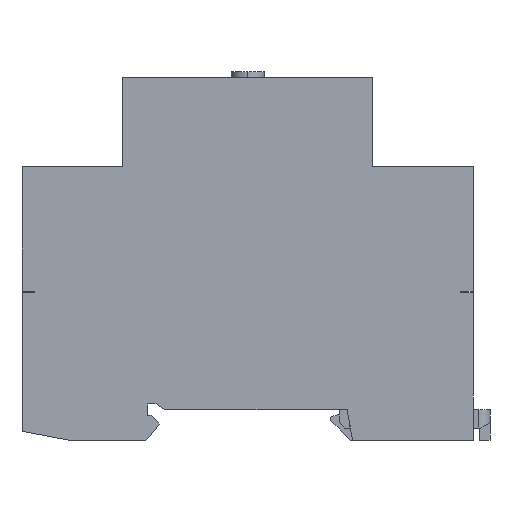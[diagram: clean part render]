
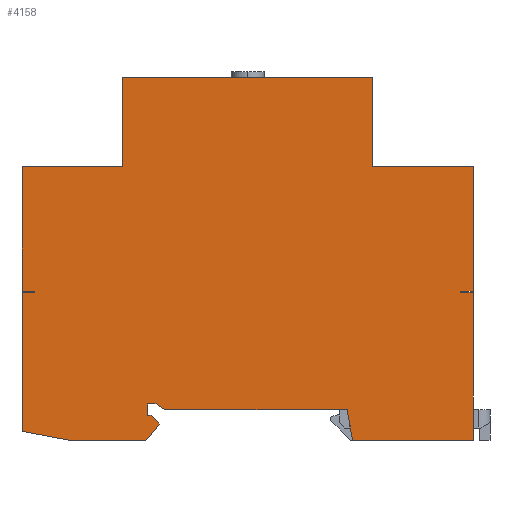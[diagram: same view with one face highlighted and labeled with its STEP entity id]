
A CAD part, left-side view. The second image highlights one B-rep face of the part: STEP entity #4158.
In plain terms, the highlighted planar face has unit normal (-1, 0, 0).
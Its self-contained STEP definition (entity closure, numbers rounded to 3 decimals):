
#1=DIRECTION('',(0.,-1.,0.));
#2=VECTOR('',#1,44.8);
#3=CARTESIAN_POINT('',(0.,62.8,2.));
#4=LINE('',#3,#2);
#5=DIRECTION('',(0.,-1.,0.));
#6=VECTOR('',#5,18.);
#7=CARTESIAN_POINT('',(0.,18.,-14.));
#8=LINE('',#7,#6);
#9=DIRECTION('',(0.,0.,-1.));
#10=VECTOR('',#9,22.3);
#11=CARTESIAN_POINT('',(0.,0.,-14.));
#12=LINE('',#11,#10);
#13=DIRECTION('',(0.,1.,0.));
#14=VECTOR('',#13,2.3);
#15=CARTESIAN_POINT('',(0.,0.,-36.3));
#16=LINE('',#15,#14);
#17=DIRECTION('',(0.,0.,-1.));
#18=VECTOR('',#17,0.2);
#19=CARTESIAN_POINT('',(0.,2.3,-36.3));
#20=LINE('',#19,#18);
#21=DIRECTION('',(0.,0.179,0.984));
#22=VECTOR('',#21,5.59);
#23=CARTESIAN_POINT('',(0.,21.6,-63.));
#24=LINE('',#23,#22);
#25=DIRECTION('',(0.,0.848,0.53));
#26=VECTOR('',#25,1.887);
#27=CARTESIAN_POINT('',(0.,55.2,-57.5));
#28=LINE('',#27,#26);
#29=DIRECTION('',(0.,-0.684,-0.73));
#30=VECTOR('',#29,2.193);
#31=CARTESIAN_POINT('',(0.,57.7,-58.5));
#32=LINE('',#31,#30);
#33=DIRECTION('',(0.,0.638,-0.77));
#34=VECTOR('',#33,3.764);
#35=CARTESIAN_POINT('',(0.,56.2,-60.1));
#36=LINE('',#35,#34);
#37=DIRECTION('',(0.,1.,0.));
#38=VECTOR('',#37,13.7);
#39=CARTESIAN_POINT('',(0.,58.6,-63.));
#40=LINE('',#39,#38);
#41=DIRECTION('',(0.,0.983,0.185));
#42=VECTOR('',#41,8.649);
#43=CARTESIAN_POINT('',(0.,72.3,-63.));
#44=LINE('',#43,#42);
#49=DIRECTION('',(0.,0.,-1.));
#50=VECTOR('',#49,16.);
#51=CARTESIAN_POINT('',(0.,62.8,2.));
#52=LINE('',#51,#50);
#141=DIRECTION('',(0.,0.,1.));
#142=VECTOR('',#141,16.);
#143=CARTESIAN_POINT('',(0.,18.,-14.));
#144=LINE('',#143,#142);
#275=DIRECTION('',(0.,1.,0.));
#276=VECTOR('',#275,2.3);
#277=CARTESIAN_POINT('',(0.,0.,-36.5));
#278=LINE('',#277,#276);
#295=DIRECTION('',(0.,0.,1.));
#296=VECTOR('',#295,26.5);
#297=CARTESIAN_POINT('',(0.,0.,-63.));
#298=LINE('',#297,#296);
#745=DIRECTION('',(0.,-1.,0.));
#746=VECTOR('',#745,32.6);
#747=CARTESIAN_POINT('',(0.,55.2,-57.5));
#748=LINE('',#747,#746);
#1175=DIRECTION('',(0.,-1.,0.));
#1176=VECTOR('',#1175,1.5);
#1177=CARTESIAN_POINT('',(0.,58.3,-56.5));
#1178=LINE('',#1177,#1176);
#1183=DIRECTION('',(0.,0.,1.));
#1184=VECTOR('',#1183,2.);
#1185=CARTESIAN_POINT('',(0.,58.3,-58.5));
#1186=LINE('',#1185,#1184);
#1191=DIRECTION('',(0.,1.,0.));
#1192=VECTOR('',#1191,0.6);
#1193=CARTESIAN_POINT('',(0.,57.7,-58.5));
#1194=LINE('',#1193,#1192);
#1219=DIRECTION('',(0.,0.,-1.));
#1220=VECTOR('',#1219,24.9);
#1221=CARTESIAN_POINT('',(0.,80.8,-36.5));
#1222=LINE('',#1221,#1220);
#1227=DIRECTION('',(0.,1.,0.));
#1228=VECTOR('',#1227,2.3);
#1229=CARTESIAN_POINT('',(0.,78.5,-36.5));
#1230=LINE('',#1229,#1228);
#1235=DIRECTION('',(0.,0.,-1.));
#1236=VECTOR('',#1235,0.2);
#1237=CARTESIAN_POINT('',(0.,78.5,-36.3));
#1238=LINE('',#1237,#1236);
#1239=DIRECTION('',(0.,-1.,0.));
#1240=VECTOR('',#1239,2.3);
#1241=CARTESIAN_POINT('',(0.,80.8,-36.3));
#1242=LINE('',#1241,#1240);
#1247=DIRECTION('',(0.,0.,-1.));
#1248=VECTOR('',#1247,22.3);
#1249=CARTESIAN_POINT('',(0.,80.8,-14.));
#1250=LINE('',#1249,#1248);
#1255=DIRECTION('',(0.,1.,0.));
#1256=VECTOR('',#1255,18.);
#1257=CARTESIAN_POINT('',(0.,62.8,-14.));
#1258=LINE('',#1257,#1256);
#2167=DIRECTION('',(0.,-1.,0.));
#2168=VECTOR('',#2167,21.6);
#2169=CARTESIAN_POINT('',(0.,21.6,-63.));
#2170=LINE('',#2169,#2168);
#3127=CARTESIAN_POINT('',(0.,72.3,-63.));
#3128=CARTESIAN_POINT('',(0.,80.8,-61.4));
#3129=VERTEX_POINT('',#3127);
#3130=VERTEX_POINT('',#3128);
#3131=CARTESIAN_POINT('',(0.,80.8,-36.5));
#3132=VERTEX_POINT('',#3131);
#3133=CARTESIAN_POINT('',(0.,0.,-63.));
#3134=CARTESIAN_POINT('',(0.,0.,-36.5));
#3135=VERTEX_POINT('',#3133);
#3136=VERTEX_POINT('',#3134);
#3137=CARTESIAN_POINT('',(0.,21.6,-63.));
#3138=VERTEX_POINT('',#3137);
#3139=CARTESIAN_POINT('',(0.,22.6,-57.5));
#3140=VERTEX_POINT('',#3139);
#3141=CARTESIAN_POINT('',(0.,55.2,-57.5));
#3142=VERTEX_POINT('',#3141);
#3143=CARTESIAN_POINT('',(0.,56.8,-56.5));
#3144=VERTEX_POINT('',#3143);
#3145=CARTESIAN_POINT('',(0.,58.3,-56.5));
#3146=VERTEX_POINT('',#3145);
#3147=CARTESIAN_POINT('',(0.,58.3,-58.5));
#3148=VERTEX_POINT('',#3147);
#3149=CARTESIAN_POINT('',(0.,57.7,-58.5));
#3150=VERTEX_POINT('',#3149);
#3151=CARTESIAN_POINT('',(0.,56.2,-60.1));
#3152=VERTEX_POINT('',#3151);
#3153=CARTESIAN_POINT('',(0.,58.6,-63.));
#3154=VERTEX_POINT('',#3153);
#3248=CARTESIAN_POINT('',(0.,18.,-14.));
#3250=VERTEX_POINT('',#3248);
#3252=CARTESIAN_POINT('',(0.,62.8,-14.));
#3254=VERTEX_POINT('',#3252);
#3255=CARTESIAN_POINT('',(0.,80.8,-36.3));
#3256=CARTESIAN_POINT('',(0.,78.5,-36.3));
#3257=VERTEX_POINT('',#3255);
#3258=VERTEX_POINT('',#3256);
#3259=CARTESIAN_POINT('',(0.,80.8,-14.));
#3260=VERTEX_POINT('',#3259);
#3375=CARTESIAN_POINT('',(0.,78.5,-36.5));
#3377=VERTEX_POINT('',#3375);
#3385=CARTESIAN_POINT('',(0.,0.,-14.));
#3386=VERTEX_POINT('',#3385);
#3399=CARTESIAN_POINT('',(0.,0.,-36.3));
#3400=VERTEX_POINT('',#3399);
#3425=CARTESIAN_POINT('',(0.,2.3,-36.3));
#3426=VERTEX_POINT('',#3425);
#3499=CARTESIAN_POINT('',(0.,2.3,-36.5));
#3501=VERTEX_POINT('',#3499);
#3839=CARTESIAN_POINT('',(0.,62.8,2.));
#3840=CARTESIAN_POINT('',(0.,18.,2.));
#3841=VERTEX_POINT('',#3839);
#3842=VERTEX_POINT('',#3840);
#4099=CARTESIAN_POINT('',(0.,40.4,-31.5));
#4100=DIRECTION('',(1.,0.,0.));
#4101=DIRECTION('',(0.,0.,-1.));
#4102=AXIS2_PLACEMENT_3D('',#4099,#4100,#4101);
#4103=PLANE('',#4102);
#4105=ORIENTED_EDGE('',*,*,#4104,.F.);
#4107=ORIENTED_EDGE('',*,*,#4106,.T.);
#4109=ORIENTED_EDGE('',*,*,#4108,.F.);
#4111=ORIENTED_EDGE('',*,*,#4110,.T.);
#4113=ORIENTED_EDGE('',*,*,#4112,.T.);
#4115=ORIENTED_EDGE('',*,*,#4114,.T.);
#4117=ORIENTED_EDGE('',*,*,#4116,.T.);
#4119=ORIENTED_EDGE('',*,*,#4118,.F.);
#4121=ORIENTED_EDGE('',*,*,#4120,.F.);
#4123=ORIENTED_EDGE('',*,*,#4122,.F.);
#4125=ORIENTED_EDGE('',*,*,#4124,.T.);
#4127=ORIENTED_EDGE('',*,*,#4126,.F.);
#4129=ORIENTED_EDGE('',*,*,#4128,.T.);
#4131=ORIENTED_EDGE('',*,*,#4130,.F.);
#4133=ORIENTED_EDGE('',*,*,#4132,.F.);
#4135=ORIENTED_EDGE('',*,*,#4134,.F.);
#4137=ORIENTED_EDGE('',*,*,#4136,.T.);
#4139=ORIENTED_EDGE('',*,*,#4138,.T.);
#4141=ORIENTED_EDGE('',*,*,#4140,.T.);
#4143=ORIENTED_EDGE('',*,*,#4142,.T.);
#4145=ORIENTED_EDGE('',*,*,#4144,.F.);
#4147=ORIENTED_EDGE('',*,*,#4146,.F.);
#4149=ORIENTED_EDGE('',*,*,#4148,.F.);
#4151=ORIENTED_EDGE('',*,*,#4150,.F.);
#4153=ORIENTED_EDGE('',*,*,#4152,.F.);
#4155=ORIENTED_EDGE('',*,*,#4154,.F.);
#4156=EDGE_LOOP('',(#4105,#4107,#4109,#4111,#4113,#4115,#4117,#4119,#4121,#4123,
#4125,#4127,#4129,#4131,#4133,#4135,#4137,#4139,#4141,#4143,#4145,#4147,#4149,
#4151,#4153,#4155));
#4157=FACE_OUTER_BOUND('',#4156,.F.);
#4158=ADVANCED_FACE('',(#4157),#4103,.F.);
#4104=EDGE_CURVE('',#3841,#3254,#52,.T.);
#4106=EDGE_CURVE('',#3841,#3842,#4,.T.);
#4108=EDGE_CURVE('',#3250,#3842,#144,.T.);
#4110=EDGE_CURVE('',#3250,#3386,#8,.T.);
#4112=EDGE_CURVE('',#3386,#3400,#12,.T.);
#4114=EDGE_CURVE('',#3400,#3426,#16,.T.);
#4116=EDGE_CURVE('',#3426,#3501,#20,.T.);
#4118=EDGE_CURVE('',#3136,#3501,#278,.T.);
#4120=EDGE_CURVE('',#3135,#3136,#298,.T.);
#4122=EDGE_CURVE('',#3138,#3135,#2170,.T.);
#4124=EDGE_CURVE('',#3138,#3140,#24,.T.);
#4126=EDGE_CURVE('',#3142,#3140,#748,.T.);
#4128=EDGE_CURVE('',#3142,#3144,#28,.T.);
#4130=EDGE_CURVE('',#3146,#3144,#1178,.T.);
#4132=EDGE_CURVE('',#3148,#3146,#1186,.T.);
#4134=EDGE_CURVE('',#3150,#3148,#1194,.T.);
#4136=EDGE_CURVE('',#3150,#3152,#32,.T.);
#4138=EDGE_CURVE('',#3152,#3154,#36,.T.);
#4140=EDGE_CURVE('',#3154,#3129,#40,.T.);
#4142=EDGE_CURVE('',#3129,#3130,#44,.T.);
#4144=EDGE_CURVE('',#3132,#3130,#1222,.T.);
#4146=EDGE_CURVE('',#3377,#3132,#1230,.T.);
#4148=EDGE_CURVE('',#3258,#3377,#1238,.T.);
#4150=EDGE_CURVE('',#3257,#3258,#1242,.T.);
#4152=EDGE_CURVE('',#3260,#3257,#1250,.T.);
#4154=EDGE_CURVE('',#3254,#3260,#1258,.T.);
